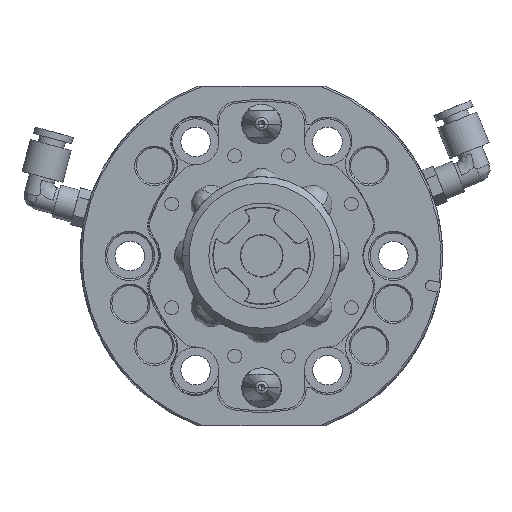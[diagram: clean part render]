
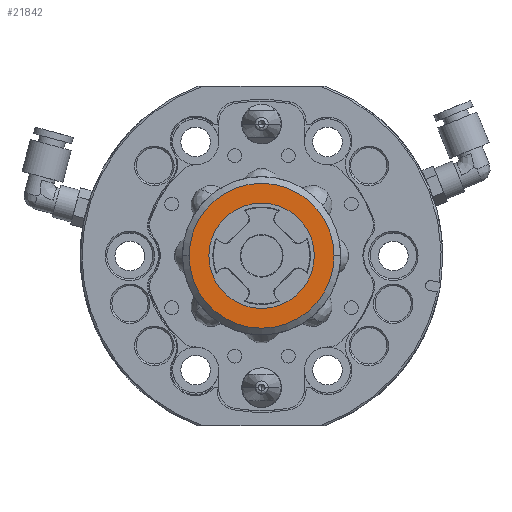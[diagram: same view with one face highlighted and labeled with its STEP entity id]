
A CAD part, top view. The second image highlights one B-rep face of the part: STEP entity #21842.
In plain terms, the highlighted planar face has unit normal (0, 0, 1).
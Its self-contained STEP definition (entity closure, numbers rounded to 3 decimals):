
#399 = DIRECTION ( 'NONE',  ( -1., 0., 0. ) ) ;
#4492 = ORIENTED_EDGE ( 'NONE', *, *, #29230, .T. ) ;
#4543 = EDGE_CURVE ( 'NONE', #18154, #20459, #17906, .T. ) ;
#6642 = CARTESIAN_POINT ( 'NONE',  ( 0., 0., 59.5 ) ) ;
#6676 = PLANE ( 'NONE',  #25369 ) ;
#7238 = ORIENTED_EDGE ( 'NONE', *, *, #4543, .F. ) ;
#7605 = CIRCLE ( 'NONE', #14241, 22. ) ;
#7682 = CARTESIAN_POINT ( 'NONE',  ( 0., 0., 59.5 ) ) ;
#7863 = EDGE_LOOP ( 'NONE', ( #7238, #15392 ) ) ;
#8447 = FACE_OUTER_BOUND ( 'NONE', #7863, .T. ) ;
#9040 = DIRECTION ( 'NONE',  ( -1., 0., 0. ) ) ;
#10979 = CARTESIAN_POINT ( 'NONE',  ( 0., 0., 59.5 ) ) ;
#11363 = VERTEX_POINT ( 'NONE', #15251 ) ;
#11471 = DIRECTION ( 'NONE',  ( 0., 0., 1. ) ) ;
#12356 = DIRECTION ( 'NONE',  ( 0., 0., -1. ) ) ;
#12516 = FACE_BOUND ( 'NONE', #29892, .T. ) ;
#12880 = VERTEX_POINT ( 'NONE', #13749 ) ;
#12953 = AXIS2_PLACEMENT_3D ( 'NONE', #10979, #20777, #20875 ) ;
#13687 = CARTESIAN_POINT ( 'NONE',  ( 0., 0., 59.5 ) ) ;
#13749 = CARTESIAN_POINT ( 'NONE',  ( 16., 0., 59.5 ) ) ;
#14241 = AXIS2_PLACEMENT_3D ( 'NONE', #7682, #12356, #399 ) ;
#15084 = AXIS2_PLACEMENT_3D ( 'NONE', #13687, #25628, #30558 ) ;
#15251 = CARTESIAN_POINT ( 'NONE',  ( -16., 0., 59.5 ) ) ;
#15392 = ORIENTED_EDGE ( 'NONE', *, *, #24290, .F. ) ;
#17361 = EDGE_CURVE ( 'NONE', #11363, #12880, #28226, .T. ) ;
#17906 = CIRCLE ( 'NONE', #15084, 22. ) ;
#18154 = VERTEX_POINT ( 'NONE', #29504 ) ;
#19801 = CARTESIAN_POINT ( 'NONE',  ( 22., 0., 59.5 ) ) ;
#20459 = VERTEX_POINT ( 'NONE', #19801 ) ;
#20777 = DIRECTION ( 'NONE',  ( 0., 0., -1. ) ) ;
#20875 = DIRECTION ( 'NONE',  ( -1., 0., 0. ) ) ;
#21500 = ORIENTED_EDGE ( 'NONE', *, *, #17361, .T. ) ;
#21842 = ADVANCED_FACE ( 'NONE', ( #8447, #12516 ), #6676, .T. ) ;
#23446 = DIRECTION ( 'NONE',  ( 0., 0., -1. ) ) ;
#23485 = CARTESIAN_POINT ( 'NONE',  ( 25., 0., 59.5 ) ) ;
#24290 = EDGE_CURVE ( 'NONE', #20459, #18154, #7605, .T. ) ;
#25369 = AXIS2_PLACEMENT_3D ( 'NONE', #23485, #11471, #30851 ) ;
#25628 = DIRECTION ( 'NONE',  ( 0., 0., -1. ) ) ;
#28226 = CIRCLE ( 'NONE', #29298, 16. ) ;
#28268 = CIRCLE ( 'NONE', #12953, 16. ) ;
#29230 = EDGE_CURVE ( 'NONE', #12880, #11363, #28268, .T. ) ;
#29298 = AXIS2_PLACEMENT_3D ( 'NONE', #6642, #23446, #9040 ) ;
#29504 = CARTESIAN_POINT ( 'NONE',  ( -22., 0., 59.5 ) ) ;
#29892 = EDGE_LOOP ( 'NONE', ( #21500, #4492 ) ) ;
#30558 = DIRECTION ( 'NONE',  ( -1., 0., 0. ) ) ;
#30851 = DIRECTION ( 'NONE',  ( 1., 0., 0. ) ) ;
